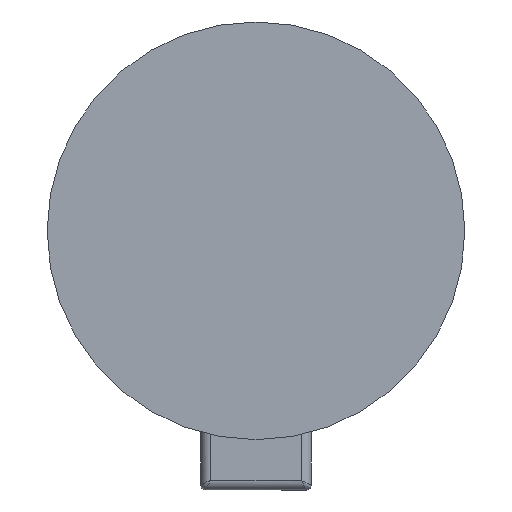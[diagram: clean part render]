
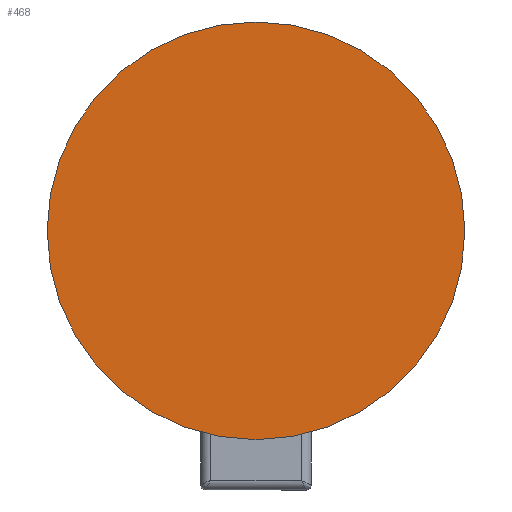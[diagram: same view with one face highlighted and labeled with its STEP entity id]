
A CAD part, front view. The second image highlights one B-rep face of the part: STEP entity #468.
In plain terms, the highlighted planar face has unit normal (0, -1, 0).
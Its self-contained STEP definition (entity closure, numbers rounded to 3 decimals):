
#76 = DIRECTION ( 'NONE',  ( 0., 1., 0. ) ) ;
#91 = CARTESIAN_POINT ( 'NONE',  ( 55., 38.812, -55. ) ) ;
#293 = DIRECTION ( 'NONE',  ( 0., 1., 0. ) ) ;
#342 = VERTEX_POINT ( 'NONE', #2155 ) ;
#468 = ADVANCED_FACE ( 'NONE', ( #3174 ), #1064, .F. ) ;
#691 = EDGE_CURVE ( 'NONE', #342, #1908, #1309, .T. ) ;
#774 = CARTESIAN_POINT ( 'NONE',  ( -85., 38.812, 27.5 ) ) ;
#823 = CARTESIAN_POINT ( 'NONE',  ( 0., 38.812, 27.5 ) ) ;
#848 = DIRECTION ( 'NONE',  ( 0., 1., 0. ) ) ;
#1064 = PLANE ( 'NONE',  #1747 ) ;
#1209 = ORIENTED_EDGE ( 'NONE', *, *, #2812, .F. ) ;
#1300 = ORIENTED_EDGE ( 'NONE', *, *, #691, .F. ) ;
#1309 = CIRCLE ( 'NONE', #3236, 85. ) ;
#1406 = AXIS2_PLACEMENT_3D ( 'NONE', #823, #848, #2175 ) ;
#1747 = AXIS2_PLACEMENT_3D ( 'NONE', #91, #76, #1878 ) ;
#1875 = CARTESIAN_POINT ( 'NONE',  ( 0., 38.812, 27.5 ) ) ;
#1878 = DIRECTION ( 'NONE',  ( -1., 0., 0. ) ) ;
#1908 = VERTEX_POINT ( 'NONE', #774 ) ;
#2149 = EDGE_LOOP ( 'NONE', ( #1209, #1300 ) ) ;
#2154 = DIRECTION ( 'NONE',  ( -1., 0., 0. ) ) ;
#2155 = CARTESIAN_POINT ( 'NONE',  ( 85., 38.812, 27.5 ) ) ;
#2175 = DIRECTION ( 'NONE',  ( -1., 0., 0. ) ) ;
#2812 = EDGE_CURVE ( 'NONE', #1908, #342, #3013, .T. ) ;
#3013 = CIRCLE ( 'NONE', #1406, 85. ) ;
#3174 = FACE_OUTER_BOUND ( 'NONE', #2149, .T. ) ;
#3236 = AXIS2_PLACEMENT_3D ( 'NONE', #1875, #293, #2154 ) ;
